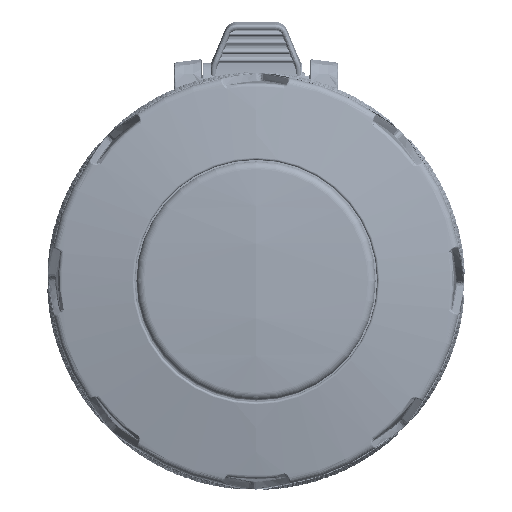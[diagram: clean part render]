
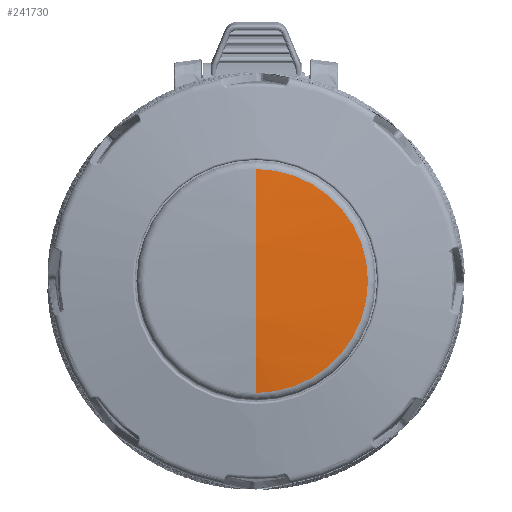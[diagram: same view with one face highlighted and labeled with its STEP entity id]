
A CAD part, top view. The second image highlights one B-rep face of the part: STEP entity #241730.
In plain terms, the highlighted spherical face has radius 232.5 mm.
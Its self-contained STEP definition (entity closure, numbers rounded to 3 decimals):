
#94447=CARTESIAN_POINT('',(0.,0.,-166.265));
#94448=DIRECTION('',(-1.,0.,0.));
#94449=DIRECTION('',(0.,-0.111,0.994));
#94450=AXIS2_PLACEMENT_3D('',#94447,#94448,#94449);
#94452=CARTESIAN_POINT('',(0.,0.,-166.265));
#94453=DIRECTION('',(-1.,0.,0.));
#94454=DIRECTION('',(0.,0.,1.));
#94455=AXIS2_PLACEMENT_3D('',#94452,#94453,#94454);
#94457=CARTESIAN_POINT('',(0.,0.,64.791));
#94458=DIRECTION('',(0.,0.,1.));
#94459=DIRECTION('',(0.,-1.,0.));
#94460=AXIS2_PLACEMENT_3D('',#94457,#94458,#94459);
#169934=CARTESIAN_POINT('',(0.,25.875,64.791));
#169935=CARTESIAN_POINT('',(0.,-25.875,64.791));
#169936=VERTEX_POINT('',#169934);
#169937=VERTEX_POINT('',#169935);
#170220=CARTESIAN_POINT('',(0.,0.,66.235));
#170221=VERTEX_POINT('',#170220);
#241720=CARTESIAN_POINT('',(0.,0.,-166.265));
#241721=DIRECTION('',(0.,0.,1.));
#241722=DIRECTION('',(0.,1.,0.));
#241723=AXIS2_PLACEMENT_3D('',#241720,#241721,#241722);
#241724=SPHERICAL_SURFACE('3726',#241723,232.5);
#241725=ORIENTED_EDGE('16536',*,*,#241707,.T.);
#241726=ORIENTED_EDGE('16537',*,*,#241705,.T.);
#241727=ORIENTED_EDGE('16229',*,*,#241666,.F.);
#241728=EDGE_LOOP('3726',(#241725,#241726,#241727));
#241729=FACE_OUTER_BOUND('3726',#241728,.F.);
#94451=CIRCLE('16536',#94450,232.5);
#94456=CIRCLE('16537',#94455,232.5);
#94461=CIRCLE('16229',#94460,25.875);
#241666=EDGE_CURVE('16229',#169937,#169936,#94461,.T.);
#241705=EDGE_CURVE('16537',#170221,#169936,#94456,.T.);
#241707=EDGE_CURVE('16536',#169937,#170221,#94451,.T.);
#241730=ADVANCED_FACE('3726',(#241729),#241724,.T.);
